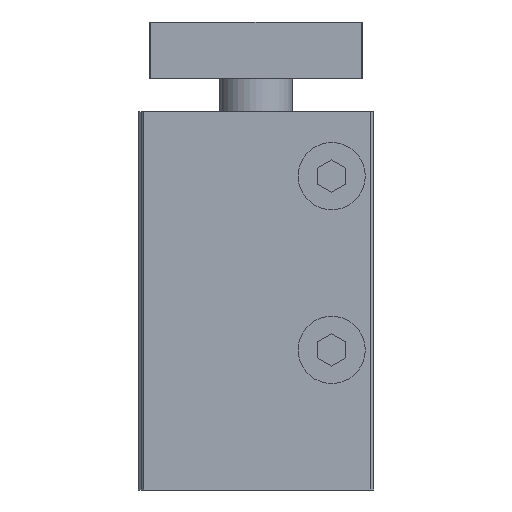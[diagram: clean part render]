
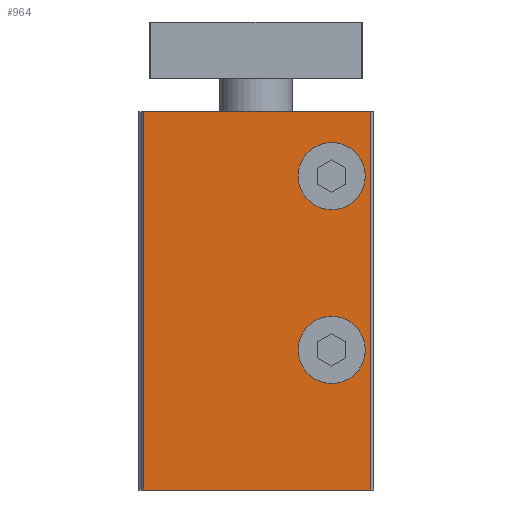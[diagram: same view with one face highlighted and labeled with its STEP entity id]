
A CAD part, front view. The second image highlights one B-rep face of the part: STEP entity #964.
In plain terms, the highlighted planar face has unit normal (0, -1, 0).
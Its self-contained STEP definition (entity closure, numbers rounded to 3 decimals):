
#964 = ADVANCED_FACE( '', ( #2061, #2062, #2063 ), #2064, .T. );
#2061 = FACE_BOUND( '', #3229, .T. );
#2062 = FACE_BOUND( '', #3230, .T. );
#2063 = FACE_OUTER_BOUND( '', #3231, .T. );
#2064 = PLANE( '', #3232 );
#3229 = EDGE_LOOP( '', ( #5664 ) );
#3230 = EDGE_LOOP( '', ( #5665 ) );
#3231 = EDGE_LOOP( '', ( #5666, #5667, #5668, #5669 ) );
#3232 = AXIS2_PLACEMENT_3D( '', #5670, #5671, #5672 );
#5664 = ORIENTED_EDGE( '', *, *, #7337, .T. );
#5665 = ORIENTED_EDGE( '', *, *, #6594, .T. );
#5666 = ORIENTED_EDGE( '', *, *, #7015, .F. );
#5667 = ORIENTED_EDGE( '', *, *, #7048, .F. );
#5668 = ORIENTED_EDGE( '', *, *, #7338, .T. );
#5669 = ORIENTED_EDGE( '', *, *, #7339, .T. );
#5670 = CARTESIAN_POINT( '', ( -20., -46.5, -67.5 ) );
#5671 = DIRECTION( '', ( 0., -1., 0. ) );
#5672 = DIRECTION( '', ( 0., 0., -1. ) );
#6594 = EDGE_CURVE( '', #7861, #7861, #7862, .T. );
#7015 = EDGE_CURVE( '', #8526, #8528, #8529, .T. );
#7048 = EDGE_CURVE( '', #8580, #8526, #8582, .T. );
#7337 = EDGE_CURVE( '', #8951, #8951, #8952, .T. );
#7338 = EDGE_CURVE( '', #8580, #8953, #8954, .T. );
#7339 = EDGE_CURVE( '', #8953, #8528, #8955, .T. );
#7861 = VERTEX_POINT( '', #9629 );
#7862 = CIRCLE( '', #9630, 6. );
#8526 = VERTEX_POINT( '', #10576 );
#8528 = VERTEX_POINT( '', #10579 );
#8529 = LINE( '', #10580, #10581 );
#8580 = VERTEX_POINT( '', #10645 );
#8582 = LINE( '', #10648, #10649 );
#8951 = VERTEX_POINT( '', #11233 );
#8952 = CIRCLE( '', #11234, 6. );
#8953 = VERTEX_POINT( '', #11235 );
#8954 = LINE( '', #11236, #11237 );
#8955 = LINE( '', #11238, #11239 );
#9629 = CARTESIAN_POINT( '', ( 19.5, -46.5, -11.5 ) );
#9630 = AXIS2_PLACEMENT_3D( '', #11760, #11761, #11762 );
#10576 = CARTESIAN_POINT( '', ( -20., -46.5, 0. ) );
#10579 = CARTESIAN_POINT( '', ( 20.5, -46.5, 0. ) );
#10580 = CARTESIAN_POINT( '', ( -20., -46.5, 0. ) );
#10581 = VECTOR( '', #12288, 1000. );
#10645 = CARTESIAN_POINT( '', ( -20., -46.5, -67.5 ) );
#10648 = CARTESIAN_POINT( '', ( -20., -46.5, -67.5 ) );
#10649 = VECTOR( '', #12351, 1000. );
#11233 = CARTESIAN_POINT( '', ( 19.5, -46.5, -42.5 ) );
#11234 = AXIS2_PLACEMENT_3D( '', #12593, #12594, #12595 );
#11235 = CARTESIAN_POINT( '', ( 20.5, -46.5, -67.5 ) );
#11236 = CARTESIAN_POINT( '', ( -20., -46.5, -67.5 ) );
#11237 = VECTOR( '', #12596, 1000. );
#11238 = CARTESIAN_POINT( '', ( 20.5, -46.5, -67.5 ) );
#11239 = VECTOR( '', #12597, 1000. );
#11760 = CARTESIAN_POINT( '', ( 13.5, -46.5, -11.5 ) );
#11761 = DIRECTION( '', ( 0., 1., 0. ) );
#11762 = DIRECTION( '', ( 1., 0., 0. ) );
#12288 = DIRECTION( '', ( 1., 0., 0. ) );
#12351 = DIRECTION( '', ( 0., 0., 1. ) );
#12593 = CARTESIAN_POINT( '', ( 13.5, -46.5, -42.5 ) );
#12594 = DIRECTION( '', ( 0., 1., 0. ) );
#12595 = DIRECTION( '', ( 1., 0., 0. ) );
#12596 = DIRECTION( '', ( 1., 0., 0. ) );
#12597 = DIRECTION( '', ( 0., 0., 1. ) );
